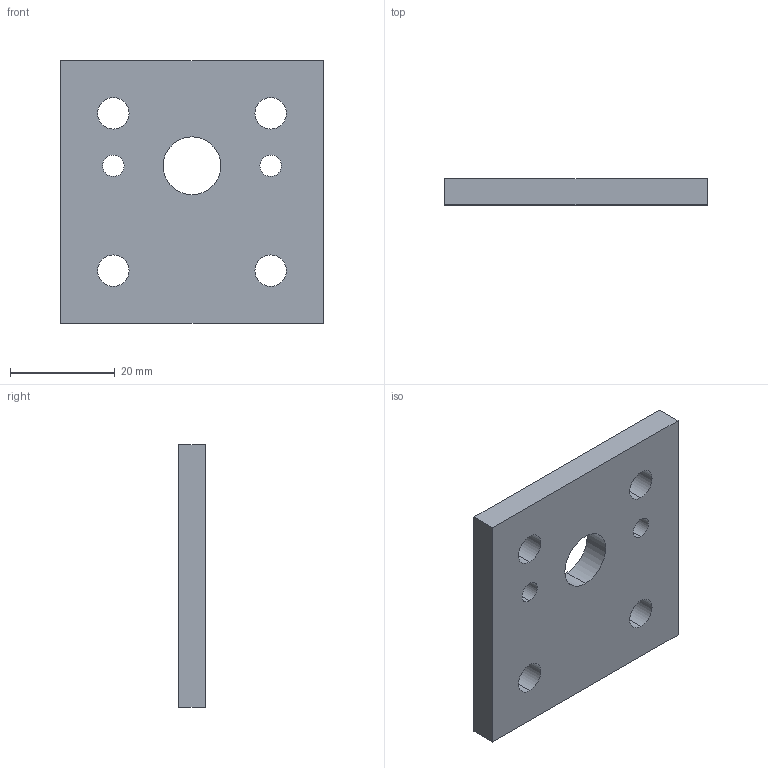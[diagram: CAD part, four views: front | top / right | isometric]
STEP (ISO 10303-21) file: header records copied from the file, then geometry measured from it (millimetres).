
FILE_DESCRIPTION (( 'STEP AP214' ), '1' );
FILE_NAME ('Soporte de guia.STEP', '2019-05-12T01:54:23', ( '' ), ( '' ), 'SwSTEP 2.0', 'SolidWorks 2018', '' );
FILE_SCHEMA (( 'AUTOMOTIVE_DESIGN' ));
Length unit declared in the file: millimetre
Products named in the file (1): Soporte de guia
Bounding box: 50 x 5 x 50 mm (x, y, z)
Volume: 11327.3 mm3; surface area: 6209.5 mm2
Topology: 1 solids, 1 shells, 20 faces, 54 edges, 36 vertices
Faces by surface type: cylinder 14, plane 6
Entity records: 708 total; most frequent: DIRECTION 124, CARTESIAN_POINT 111, ORIENTED_EDGE 108, EDGE_CURVE 54, AXIS2_PLACEMENT_3D 49, VERTEX_POINT 36, EDGE_LOOP 34, CIRCLE 28
